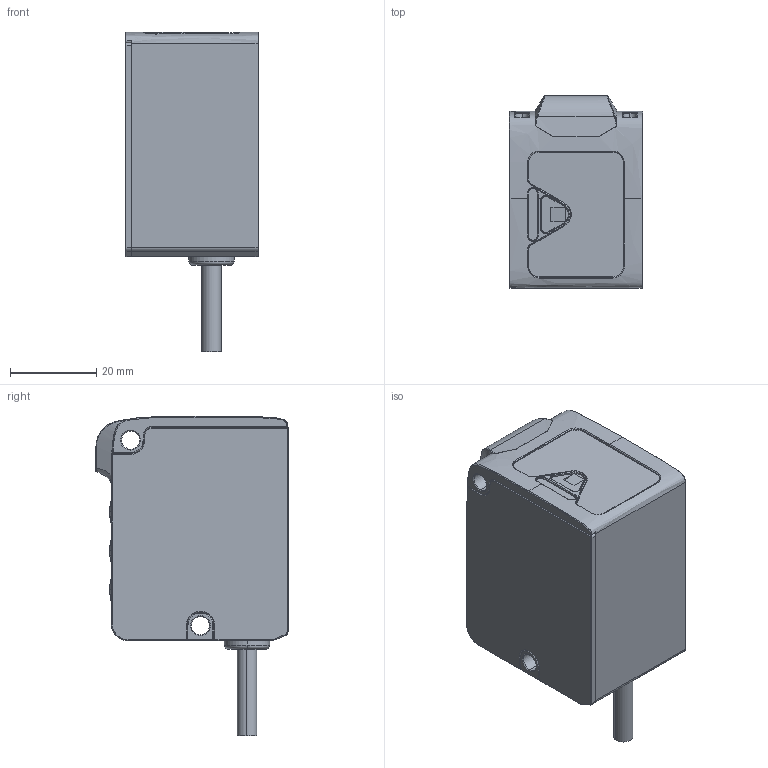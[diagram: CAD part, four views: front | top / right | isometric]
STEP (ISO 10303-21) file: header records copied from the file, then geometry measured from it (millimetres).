
FILE_DESCRIPTION(/* description */ (''),/* implementation_level */ '2;1');
FILE_NAME(/* name */ 'SDE',/* time_stamp */ '2025-11-13T13:39:17+08:00',/* author */ (''),/* organization */ (''),/* preprocessor_version */ 'ST-DEVELOPER v19.2',/* originating_system */ 'Rhino 8.5',/* authorisation */ '');
FILE_SCHEMA (('CONFIG_CONTROL_DESIGN'));
Length unit declared in the file: millimetre
Products named in the file (1): Document
Bounding box: 31 x 44.53 x 74 mm (x, y, z)
Surface area: 11467.5 mm2 (no closed solid volume)
Topology: 0 solids, 20 shells, 339 faces, 1280 edges, 943 vertices
Faces by surface type: bspline 146, plane 121, cylinder 72
Entity records: 24441 total; most frequent: CARTESIAN_POINT 15203, ORIENTED_EDGE 1940, EDGE_CURVE 1282, DIRECTION 1185, VERTEX_POINT 945, B_SPLINE_CURVE_WITH_KNOTS 779, AXIS2_PLACEMENT_3D 689, TRIMMED_CURVE 494
